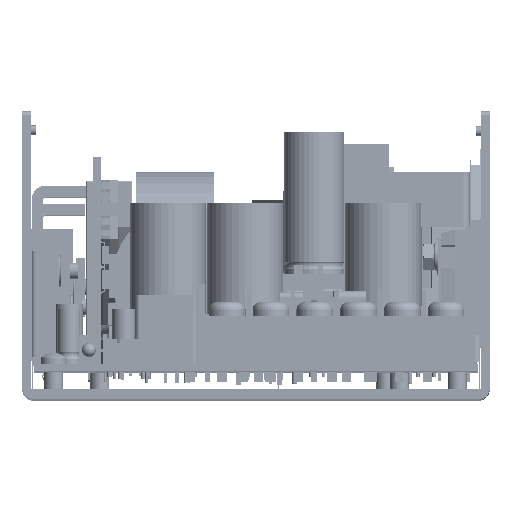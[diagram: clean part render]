
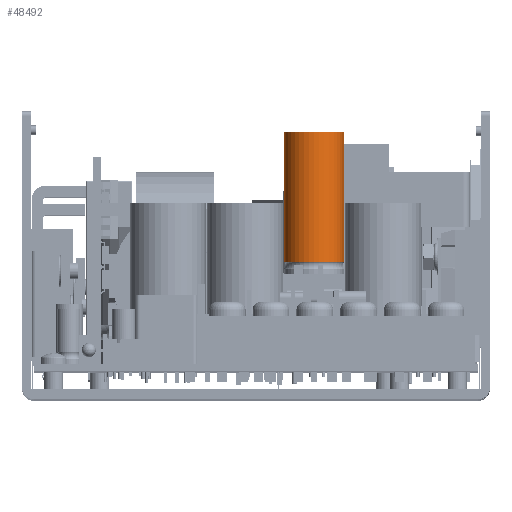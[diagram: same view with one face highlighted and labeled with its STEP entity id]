
A CAD part, top view. The second image highlights one B-rep face of the part: STEP entity #48492.
In plain terms, the highlighted cylindrical face has radius 6.5 mm (diameter 13 mm), a partial arc.
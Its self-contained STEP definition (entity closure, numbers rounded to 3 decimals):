
#48317 = VERTEX_POINT ( 'NONE', #66329 ) ;
#48389 = VERTEX_POINT ( 'NONE', #66498 ) ;
#48397 = EDGE_CURVE ( 'NONE', #48389, #48317, #66547, .T. ) ;
#48452 = ORIENTED_EDGE ( 'NONE', *, *, #48397, .F. ) ;
#48464 = ORIENTED_EDGE ( 'NONE', *, *, #48508, .T. ) ;
#48465 = ORIENTED_EDGE ( 'NONE', *, *, #48493, .T. ) ;
#48492 = ADVANCED_FACE ( 'NONE', ( #66718 ), #66713, .T. ) ;
#48493 = EDGE_CURVE ( 'NONE', #48501, #48500, #66709, .T. ) ;
#48497 = EDGE_CURVE ( 'NONE', #48501, #48389, #66757, .T. ) ;
#48500 = VERTEX_POINT ( 'NONE', #66717 ) ;
#48501 = VERTEX_POINT ( 'NONE', #66751 ) ;
#48507 = ORIENTED_EDGE ( 'NONE', *, *, #48497, .F. ) ;
#48508 = EDGE_CURVE ( 'NONE', #48500, #48317, #66745, .T. ) ;
#48510 = EDGE_LOOP ( 'NONE', ( #48507, #48465, #48464, #48452 ) ) ;
#66329 = CARTESIAN_POINT ( 'NONE',  ( 0., 2.75, -6.5 ) ) ;
#66498 = CARTESIAN_POINT ( 'NONE',  ( 0., 2.75, 6.5 ) ) ;
#66534 = CARTESIAN_POINT ( 'NONE',  ( 0., 2.75, 0. ) ) ;
#66536 = AXIS2_PLACEMENT_3D ( 'NONE', #66534, #66593, #66592 ) ;
#66547 = CIRCLE ( 'NONE', #66536, 6.5 ) ;
#66592 = DIRECTION ( 'NONE',  ( 0., 0., -1. ) ) ;
#66593 = DIRECTION ( 'NONE',  ( 0., -1., 0. ) ) ;
#66703 = AXIS2_PLACEMENT_3D ( 'NONE', #66759, #66755, #66754 ) ;
#66709 = CIRCLE ( 'NONE', #66703, 6.5 ) ;
#66713 = CYLINDRICAL_SURFACE ( 'NONE', #66723, 6.5 ) ;
#66717 = CARTESIAN_POINT ( 'NONE',  ( 0., 31., -6.5 ) ) ;
#66718 = FACE_OUTER_BOUND ( 'NONE', #48510, .T. ) ;
#66723 = AXIS2_PLACEMENT_3D ( 'NONE', #66763, #66762, #66758 ) ;
#66745 = LINE ( 'NONE', #66792, #66791 ) ;
#66747 = DIRECTION ( 'NONE',  ( 0., -1., 0. ) ) ;
#66748 = VECTOR ( 'NONE', #66747, 1000. ) ;
#66749 = CARTESIAN_POINT ( 'NONE',  ( 0., 0., 6.5 ) ) ;
#66751 = CARTESIAN_POINT ( 'NONE',  ( 0., 31., 6.5 ) ) ;
#66754 = DIRECTION ( 'NONE',  ( 0., 0., -1. ) ) ;
#66755 = DIRECTION ( 'NONE',  ( 0., -1., 0. ) ) ;
#66757 = LINE ( 'NONE', #66749, #66748 ) ;
#66758 = DIRECTION ( 'NONE',  ( 0., 0., -1. ) ) ;
#66759 = CARTESIAN_POINT ( 'NONE',  ( 0., 31., 0. ) ) ;
#66762 = DIRECTION ( 'NONE',  ( 0., -1., 0. ) ) ;
#66763 = CARTESIAN_POINT ( 'NONE',  ( 0., 0., 0. ) ) ;
#66790 = DIRECTION ( 'NONE',  ( 0., -1., 0. ) ) ;
#66791 = VECTOR ( 'NONE', #66790, 1000. ) ;
#66792 = CARTESIAN_POINT ( 'NONE',  ( 0., 0., -6.5 ) ) ;
